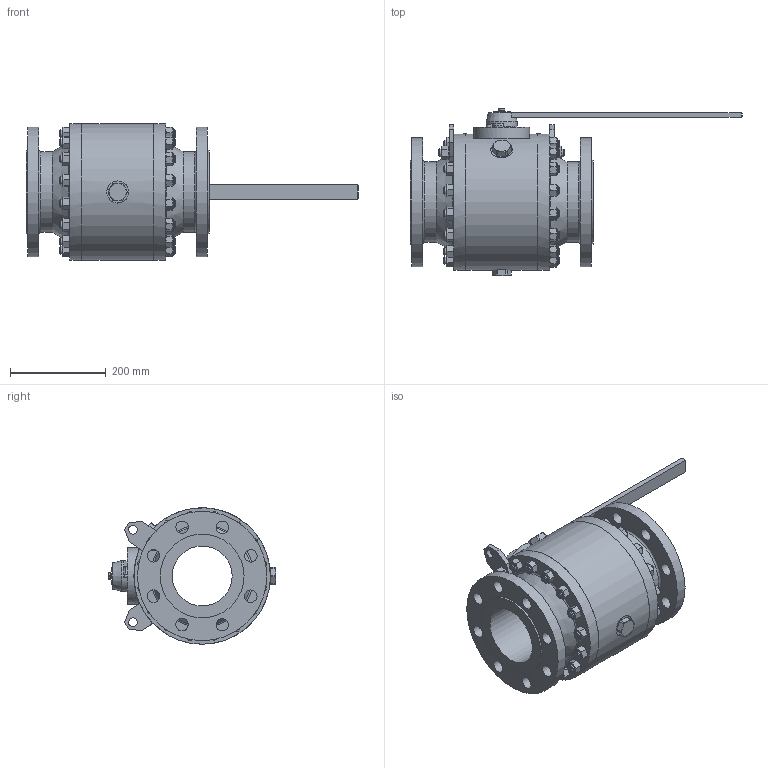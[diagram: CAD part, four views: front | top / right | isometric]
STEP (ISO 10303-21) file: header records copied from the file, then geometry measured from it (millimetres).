
FILE_DESCRIPTION(('STEP AP203'), '1');
FILE_NAME('ZARDP 125.025.22.P.stp', '2013-12-06T13:08:19', ($), ($), 'ASCON STEP Converter 1.3', 'Kompas 3D', '');
FILE_SCHEMA(('CONFIG_CONTROL_DESIGN','SUPPORT_RESOURCE_SCHEMA'));
Length unit declared in the file: millimetre
Products named in the file (1): 45
Bounding box: 693.5 x 349.5 x 285 mm (x, y, z)
Volume: 12467061 mm3; surface area: 1030125.9 mm2
Topology: 1 solids, 46 shells, 1114 faces, 2434 edges, 1516 vertices
Faces by surface type: plane 617, cone 252, cylinder 241, torus 4
Full cylindrical faces by diameter (mm): 8 x3, 8.5 x1, 10 x8, 10.106 x8, 12 x8, 13 x9, 13.835 x2, 16 x64, 18 x42, 19 x8, 23.752 x2, 26 x16, 27 x2, 31 x1, 34 x1, 36 x1, 38 x1, 38.2 x1, 46 x2, 48 x1, 48.5 x1, 65 x1, 117 x1, 125 x2, 168 x2, 175 x2, 210 x1, 270 x2, 285 x3
Entity records: 48907 total; most frequent: CARTESIAN_POINT 24569, DIRECTION 5018, ORIENTED_EDGE 4852, EDGE_CURVE 2426, AXIS2_PLACEMENT_3D 1991, VERTEX_POINT 1516, EDGE_LOOP 1352, ADVANCED_FACE 1114
